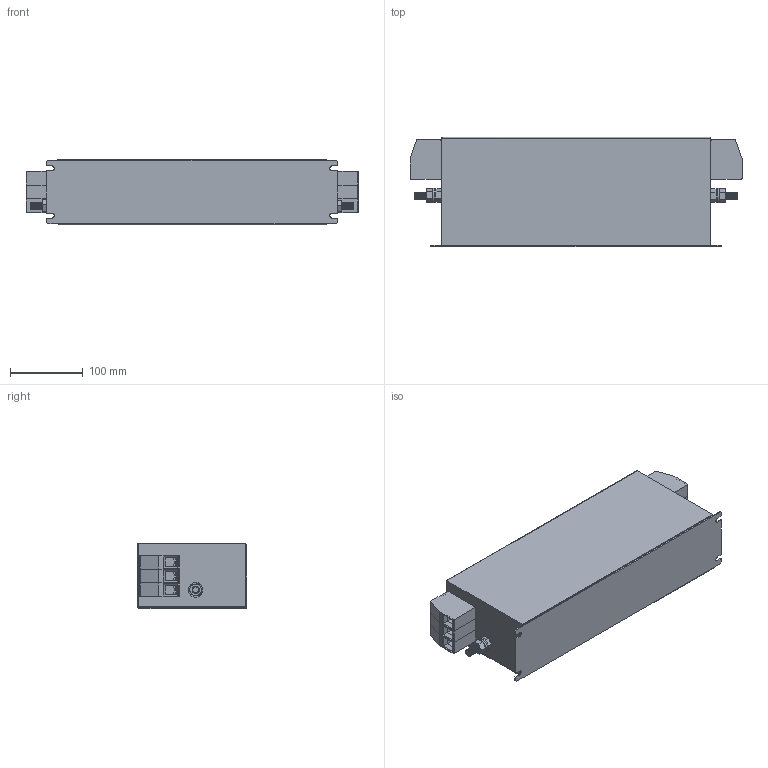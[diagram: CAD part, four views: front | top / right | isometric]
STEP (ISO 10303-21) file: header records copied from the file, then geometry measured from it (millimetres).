
FILE_DESCRIPTION (( 'STEP AP203' ), '1' );
FILE_NAME ('177040 NF-KC-DAR-100 & 130.STEP', '2017-07-25T14:41:12', ( '' ), ( '' ), 'SwSTEP 2.0', 'SolidWorks 2017', '' );
FILE_SCHEMA (( 'CONFIG_CONTROL_DESIGN' ));
Length unit declared in the file: millimetre
Products named in the file (7): 177040 NF-KC-DAR-100 & 130; HDFK-50; flat washer narrow_am_B18.22M - Plain washer, 10 mm, narrow; M10x30 Earth post; hex nut style 1_am_B18.2.4.1M - Hex nut, Style 1,  M10 x 1.5, with 16mm WAF --D-N; hex screw_am_B18.6.7M - M10 x 1.5 x 30 Indented HHMS --30S
Assembly tree (13 placements, depth 3):
  177040 NF-KC-DAR-100 & 130
    177040 NF-KC-DAR-100 & 130
    M10x30 Earth post  x2
      flat washer narrow_am_B18.22M - Plain washer, 10 mm, narrow
      hex nut style 1_am_B18.2.4.1M - Hex nut, Style 1,  M10 x 1.5, with 16mm WAF --D-N
      hex screw_am_B18.6.7M - M10 x 1.5 x 30 Indented HHMS --30S
    HDFK-50  x6
Bounding box: 456.01 x 150 x 90 mm (x, y, z)
Volume: 4935053.8 mm3; surface area: 394762.6 mm2
Topology: 15 solids, 15 shells, 789 faces, 1935 edges, 1226 vertices
Faces by surface type: plane 386, cylinder 201, cone 200, sphere 2
Entity records: 10360 total; most frequent: CARTESIAN_POINT 1815, DIRECTION 1685, ORIENTED_EDGE 1550, EDGE_CURVE 775, AXIS2_PLACEMENT_3D 630, VERTEX_POINT 488, LINE 425, VECTOR 425
